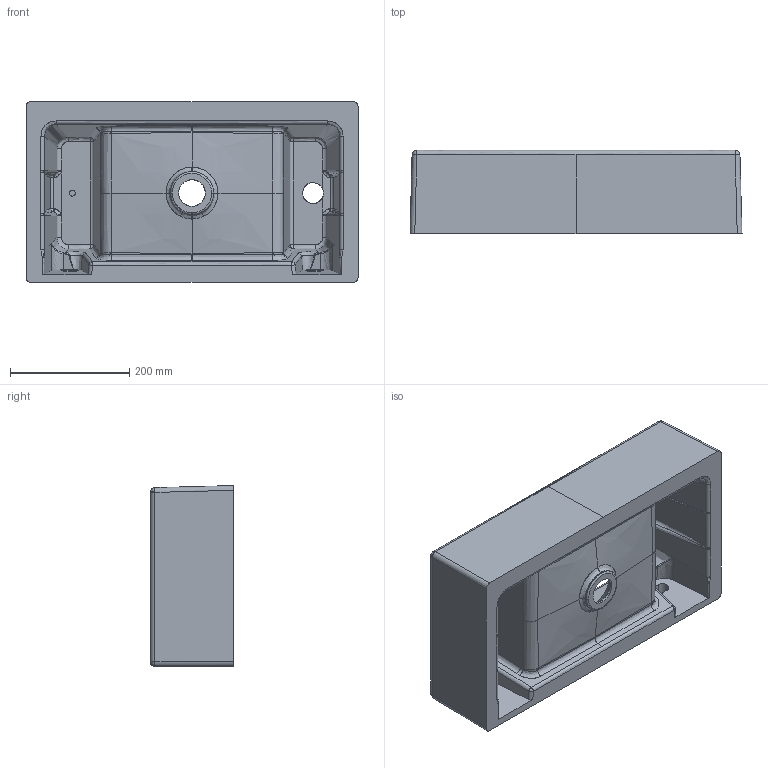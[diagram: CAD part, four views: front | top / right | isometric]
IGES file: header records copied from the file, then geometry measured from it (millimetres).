
Start section: START RECORD GO HERE.
Global section: file name: 3D ART 6035.igs; native system: DASSAULT SYSTEMES CATIA V5 R19 - www.3ds.com; preprocessor: CATIA Version 5 Release 19 SP 5 ; author: Luca; organization: DESKTOP-V7SON24; date: 20201023.102002; units: millimetre
Bounding box: 557.33 x 140 x 303.67 mm (x, y, z)
Surface area: 788611.7 mm2 (no closed solid volume)
Topology: 0 solids, 0 shells, 296 faces, 1395 edges, 1361 vertices
Faces by surface type: revolution 146, bspline 132, plane 18
